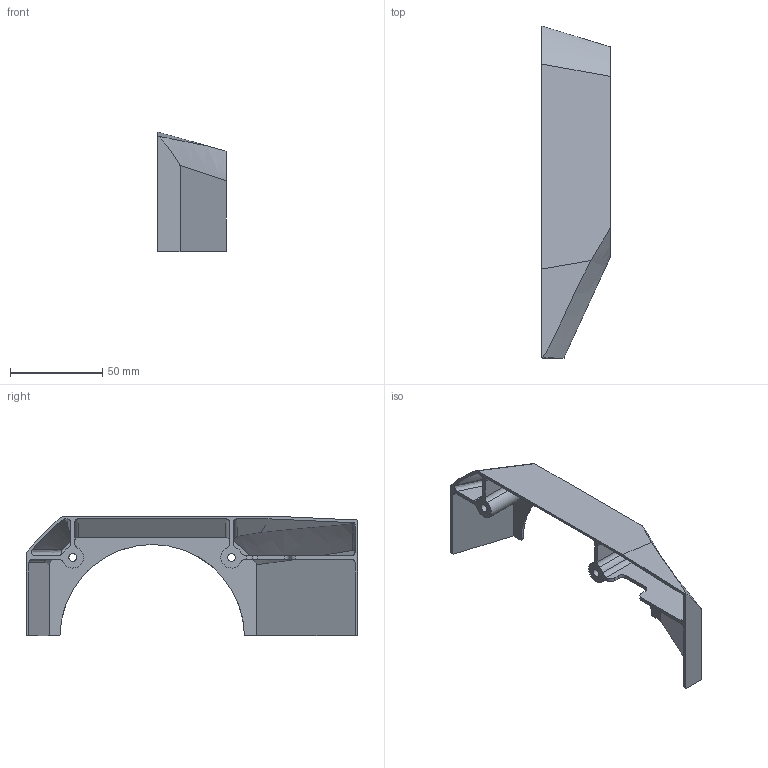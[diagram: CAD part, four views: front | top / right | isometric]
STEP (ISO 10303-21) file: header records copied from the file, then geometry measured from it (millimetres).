
FILE_DESCRIPTION(/* description */ ('STEP AP242 Edition 2','CAx-IF Rec.Pracs.---Representation and Presentation of Product Manufacturing Information (PMI)---4.0---2014-10-13','CAx-IF Rec.Pracs.---3D Tessellated Geometry---0.4---2014-09-14','2;1','CAx-IF Rec.Pracs.---User Defined Attributes---1.5---2016-08-15'),/* implementation_level */ '2;1');
FILE_NAME(/* name */ 'Assy_ForMFG - KD-B-104L_SHDR_COVER_F (1)',/* time_stamp */ '2026-05-15T19:56:26Z',/* author */ (''),/* organization */ (''),/* preprocessor_version */ 'ST-DEVELOPER v20',/* originating_system */ 'ONSHAPE BY PTC INC, 1.215',/* authorisation */ ' ');
FILE_SCHEMA (('AP242_MANAGED_MODEL_BASED_3D_ENGINEERING_MIM_LF { 1 0 10303 442 3 1 4 }'));
Length unit declared in the file: metre
Products named in the file (1): KD-B-104L_SHDR_COVER_F
Bounding box: 37 x 179.84 x 65 mm (x, y, z)
Volume: 30006.9 mm3; surface area: 36002 mm2
Topology: 1 solids, 1 shells, 76 faces, 215 edges, 144 vertices
Faces by surface type: plane 38, cylinder 28, bspline 8, cone 2
Full cylindrical faces by diameter (mm): 4.3 x2, 7.5 x2
Entity records: 4205 total; most frequent: CARTESIAN_POINT 2281, ORIENTED_EDGE 412, DIRECTION 366, EDGE_CURVE 206, VERTEX_POINT 141, AXIS2_PLACEMENT_3D 127, LINE 112, VECTOR 112
